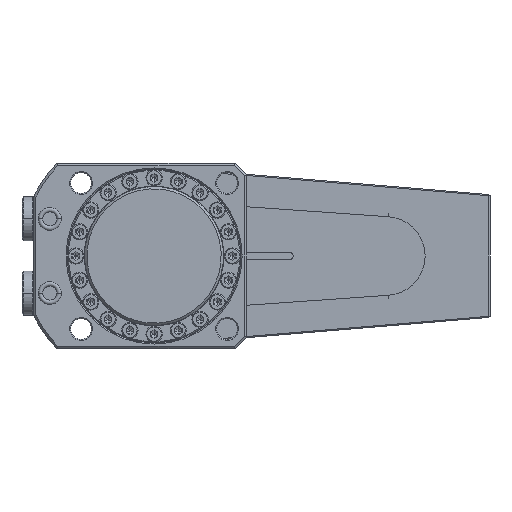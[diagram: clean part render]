
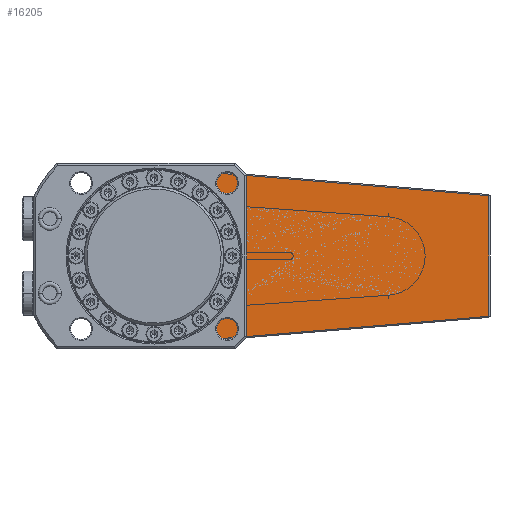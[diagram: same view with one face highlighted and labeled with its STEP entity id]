
A CAD part, front view. The second image highlights one B-rep face of the part: STEP entity #16205.
In plain terms, the highlighted planar face has unit normal (0, -1, 0).
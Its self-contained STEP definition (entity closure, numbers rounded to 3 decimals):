
#12370=DIRECTION('',(1.,0.,0.));
#12371=VECTOR('',#12370,21.334);
#12372=CARTESIAN_POINT('',(-39.5,-17.5,1.5));
#12373=LINE('',#12372,#12371);
#12374=DIRECTION('',(0.,0.,-1.));
#12375=VECTOR('',#12374,23.5);
#12376=CARTESIAN_POINT('',(-39.5,-17.5,25.));
#12377=LINE('',#12376,#12375);
#12378=DIRECTION('',(-0.707,0.,-0.707));
#12379=VECTOR('',#12378,1.414);
#12380=CARTESIAN_POINT('',(-38.5,-17.5,26.));
#12381=LINE('',#12380,#12379);
#12382=DIRECTION('',(-1.,0.,0.));
#12383=VECTOR('',#12382,34.);
#12384=CARTESIAN_POINT('',(-4.5,-17.5,26.));
#12385=LINE('',#12384,#12383);
#12386=DIRECTION('',(0.,0.,-1.));
#12387=VECTOR('',#12386,10.);
#12388=CARTESIAN_POINT('',(-4.5,-17.5,36.));
#12389=LINE('',#12388,#12387);
#12390=DIRECTION('',(-1.,0.,0.));
#12391=VECTOR('',#12390,29.479);
#12392=CARTESIAN_POINT('',(24.979,-17.5,36.));
#12393=LINE('',#12392,#12391);
#12394=DIRECTION('',(-0.997,0.,0.083));
#12395=VECTOR('',#12394,119.935);
#12396=CARTESIAN_POINT('',(144.5,-17.5,26.04));
#12397=LINE('',#12396,#12395);
#12398=DIRECTION('',(0.,0.,1.));
#12399=VECTOR('',#12398,52.08);
#12400=CARTESIAN_POINT('',(144.5,-17.5,-26.04));
#12401=LINE('',#12400,#12399);
#12402=DIRECTION('',(0.997,0.,0.083));
#12403=VECTOR('',#12402,119.935);
#12404=CARTESIAN_POINT('',(24.979,-17.5,-36.));
#12405=LINE('',#12404,#12403);
#12406=DIRECTION('',(1.,0.,0.));
#12407=VECTOR('',#12406,29.479);
#12408=CARTESIAN_POINT('',(-4.5,-17.5,-36.));
#12409=LINE('',#12408,#12407);
#12410=DIRECTION('',(0.,0.,-1.));
#12411=VECTOR('',#12410,10.);
#12412=CARTESIAN_POINT('',(-4.5,-17.5,-26.));
#12413=LINE('',#12412,#12411);
#12414=DIRECTION('',(1.,0.,0.));
#12415=VECTOR('',#12414,34.);
#12416=CARTESIAN_POINT('',(-38.5,-17.5,-26.));
#12417=LINE('',#12416,#12415);
#12418=DIRECTION('',(0.707,0.,-0.707));
#12419=VECTOR('',#12418,1.414);
#12420=CARTESIAN_POINT('',(-39.5,-17.5,-25.));
#12421=LINE('',#12420,#12419);
#12422=DIRECTION('',(0.,0.,-1.));
#12423=VECTOR('',#12422,23.5);
#12424=CARTESIAN_POINT('',(-39.5,-17.5,-1.5));
#12425=LINE('',#12424,#12423);
#12426=DIRECTION('',(1.,0.,0.));
#12427=VECTOR('',#12426,21.334);
#12428=CARTESIAN_POINT('',(-39.5,-17.5,-1.5));
#12429=LINE('',#12428,#12427);
#12435=CARTESIAN_POINT('',(0.001,-17.5,0.));
#12436=DIRECTION('',(0.,1.,0.));
#12437=DIRECTION('',(-0.997,0.,0.082));
#12438=AXIS2_PLACEMENT_3D('',#12435,#12436,#12437);
#12542=CARTESIAN_POINT('',(-18.166,-17.5,
-1.5));
#12722=CARTESIAN_POINT('',(-18.166,-17.5,
1.5));
#15835=CARTESIAN_POINT('',(-38.5,-17.5,26.));
#15837=VERTEX_POINT('',#15835);
#15841=CARTESIAN_POINT('',(-4.5,-17.5,26.));
#15842=VERTEX_POINT('',#15841);
#15847=CARTESIAN_POINT('',(144.5,-17.5,-26.04));
#15848=CARTESIAN_POINT('',(144.5,-17.5,26.04));
#15849=VERTEX_POINT('',#15847);
#15850=VERTEX_POINT('',#15848);
#15860=CARTESIAN_POINT('',(-38.5,-17.5,-26.));
#15862=VERTEX_POINT('',#15860);
#15863=CARTESIAN_POINT('',(-4.5,-17.5,-26.));
#15864=VERTEX_POINT('',#15863);
#15883=CARTESIAN_POINT('',(-39.5,-17.5,-25.));
#15885=VERTEX_POINT('',#15883);
#15889=CARTESIAN_POINT('',(-39.5,-17.5,-1.5));
#15890=VERTEX_POINT('',#15889);
#15891=CARTESIAN_POINT('',(-39.5,-17.5,1.5));
#15893=VERTEX_POINT('',#15891);
#15897=CARTESIAN_POINT('',(-39.5,-17.5,25.));
#15898=VERTEX_POINT('',#15897);
#15900=VERTEX_POINT('',#12722);
#15901=VERTEX_POINT('',#12542);
#15947=CARTESIAN_POINT('',(-4.5,-17.5,-36.));
#15948=VERTEX_POINT('',#15947);
#15949=CARTESIAN_POINT('',(24.979,-17.5,-36.));
#15950=VERTEX_POINT('',#15949);
#15975=CARTESIAN_POINT('',(24.979,-17.5,36.));
#15976=VERTEX_POINT('',#15975);
#15977=CARTESIAN_POINT('',(-4.5,-17.5,36.));
#15978=VERTEX_POINT('',#15977);
#16166=CARTESIAN_POINT('',(0.,-17.5,0.));
#16167=DIRECTION('',(0.,1.,0.));
#16168=DIRECTION('',(1.,0.,0.));
#16169=AXIS2_PLACEMENT_3D('',#16166,#16167,#16168);
#16170=PLANE('',#16169);
#16172=ORIENTED_EDGE('',*,*,#16171,.F.);
#16174=ORIENTED_EDGE('',*,*,#16173,.F.);
#16176=ORIENTED_EDGE('',*,*,#16175,.F.);
#16178=ORIENTED_EDGE('',*,*,#16177,.F.);
#16180=ORIENTED_EDGE('',*,*,#16179,.F.);
#16182=ORIENTED_EDGE('',*,*,#16181,.F.);
#16184=ORIENTED_EDGE('',*,*,#16183,.F.);
#16186=ORIENTED_EDGE('',*,*,#16185,.F.);
#16188=ORIENTED_EDGE('',*,*,#16187,.F.);
#16190=ORIENTED_EDGE('',*,*,#16189,.F.);
#16192=ORIENTED_EDGE('',*,*,#16191,.F.);
#16194=ORIENTED_EDGE('',*,*,#16193,.F.);
#16196=ORIENTED_EDGE('',*,*,#16195,.F.);
#16198=ORIENTED_EDGE('',*,*,#16197,.F.);
#16200=ORIENTED_EDGE('',*,*,#16199,.F.);
#16202=ORIENTED_EDGE('',*,*,#16201,.T.);
#16203=EDGE_LOOP('',(#16172,#16174,#16176,#16178,#16180,#16182,#16184,#16186,
#16188,#16190,#16192,#16194,#16196,#16198,#16200,#16202));
#16204=FACE_OUTER_BOUND('',#16203,.F.);
#16205=ADVANCED_FACE('',(#16204),#16170,.F.);
#12439=CIRCLE('',#12438,18.229);
#16171=EDGE_CURVE('',#15900,#15901,#12439,.T.);
#16173=EDGE_CURVE('',#15893,#15900,#12373,.T.);
#16175=EDGE_CURVE('',#15898,#15893,#12377,.T.);
#16177=EDGE_CURVE('',#15837,#15898,#12381,.T.);
#16179=EDGE_CURVE('',#15842,#15837,#12385,.T.);
#16181=EDGE_CURVE('',#15978,#15842,#12389,.T.);
#16183=EDGE_CURVE('',#15976,#15978,#12393,.T.);
#16185=EDGE_CURVE('',#15850,#15976,#12397,.T.);
#16187=EDGE_CURVE('',#15849,#15850,#12401,.T.);
#16189=EDGE_CURVE('',#15950,#15849,#12405,.T.);
#16191=EDGE_CURVE('',#15948,#15950,#12409,.T.);
#16193=EDGE_CURVE('',#15864,#15948,#12413,.T.);
#16195=EDGE_CURVE('',#15862,#15864,#12417,.T.);
#16197=EDGE_CURVE('',#15885,#15862,#12421,.T.);
#16199=EDGE_CURVE('',#15890,#15885,#12425,.T.);
#16201=EDGE_CURVE('',#15890,#15901,#12429,.T.);
